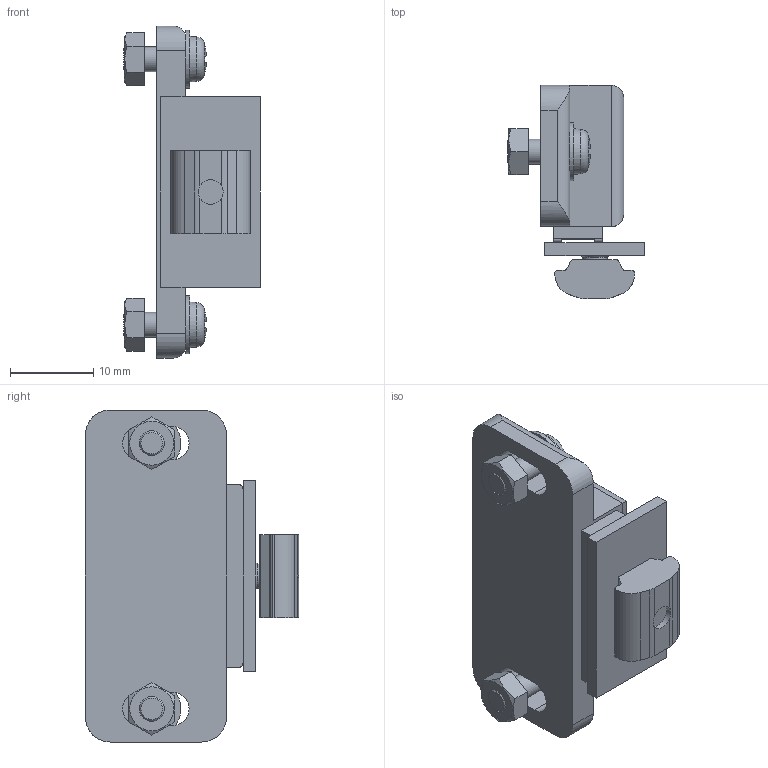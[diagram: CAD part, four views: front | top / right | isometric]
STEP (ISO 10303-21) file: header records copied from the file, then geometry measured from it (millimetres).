
FILE_DESCRIPTION(('STEP AP214'),'1');
FILE_NAME('MD25-N.stp','2022-06-06T08:54:24',(' '),(' '),'Spatial InterOp 3D',' ',' ');
FILE_SCHEMA(('AUTOMOTIVE_DESIGN { 1 0 10303 214 1 1 1 1 }'));
Length unit declared in the file: millimetre
Products named in the file (11): MD25-N; MD40-N; パーツ95; ___; 受け板; ねじ: 皿頭 - M3.0 x 6.0; NF25-M3; M3×8NNS; M3PW
Assembly tree (11 placements, depth 3):
  MD25-N
    MD40-N
    パーツ95  x2
    ___
      受け板
      ねじ: 皿頭 - M3.0 x 6.0
      NF25-M3
    M3×8NNS
    M3PW
    M3×8NNS
    M3PW
Bounding box: 16.5 x 25.7 x 40 mm (x, y, z)
Volume: 5928.9 mm3; surface area: 4120.9 mm2
Topology: 10 solids, 10 shells, 187 faces, 467 edges, 304 vertices
Faces by surface type: plane 124, cylinder 50, cone 9, torus 2, sphere 2
Full cylindrical faces by diameter (mm): 3 x5, 3.2 x2, 4.5 x1, 7 x2
Entity records: 6936 total; most frequent: CARTESIAN_POINT 1062, DIRECTION 898, ORIENTED_EDGE 834, EDGE_CURVE 417, AXIS2_PLACEMENT_3D 311, VERTEX_POINT 283, LINE 276, VECTOR 276
